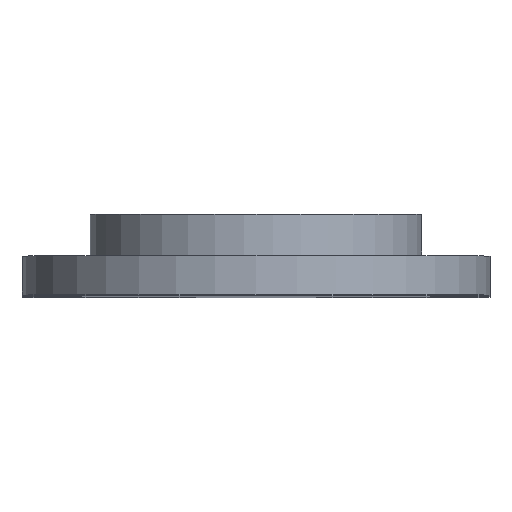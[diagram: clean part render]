
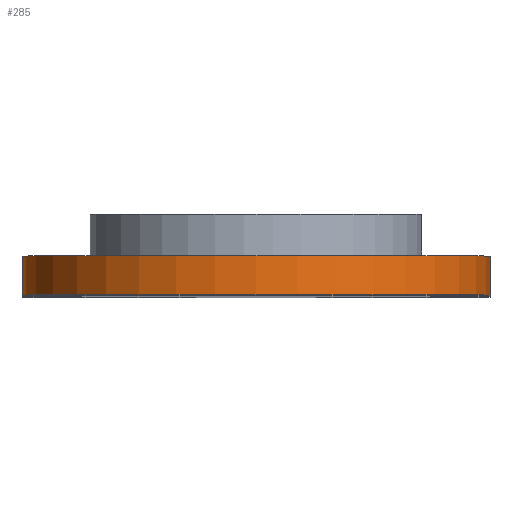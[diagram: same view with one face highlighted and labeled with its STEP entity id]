
A CAD part, top view. The second image highlights one B-rep face of the part: STEP entity #285.
In plain terms, the highlighted cylindrical face has radius 9 mm (diameter 18 mm), a full revolution.
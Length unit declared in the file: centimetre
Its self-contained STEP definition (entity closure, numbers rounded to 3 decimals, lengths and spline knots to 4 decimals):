
#33=CYLINDRICAL_SURFACE('',#335,0.9);
#52=FACE_BOUND('',#121,.T.);
#78=FACE_OUTER_BOUND('',#120,.T.);
#120=EDGE_LOOP('',(#240));
#121=EDGE_LOOP('',(#241));
#149=CIRCLE('',#331,0.9);
#152=CIRCLE('',#336,0.9);
#173=VERTEX_POINT('',#503);
#176=VERTEX_POINT('',#511);
#197=EDGE_CURVE('',#173,#173,#149,.T.);
#200=EDGE_CURVE('',#176,#176,#152,.T.);
#240=ORIENTED_EDGE('',*,*,#197,.F.);
#241=ORIENTED_EDGE('',*,*,#200,.F.);
#285=ADVANCED_FACE('',(#78,#52),#33,.T.);
#331=AXIS2_PLACEMENT_3D('',#504,#419,#420);
#335=AXIS2_PLACEMENT_3D('',#510,#427,#428);
#336=AXIS2_PLACEMENT_3D('',#512,#429,#430);
#419=DIRECTION('center_axis',(0.,1.,0.));
#420=DIRECTION('ref_axis',(1.,0.,0.));
#427=DIRECTION('center_axis',(0.,1.,0.));
#428=DIRECTION('ref_axis',(1.,0.,0.));
#429=DIRECTION('center_axis',(0.,-1.,0.));
#430=DIRECTION('ref_axis',(1.,0.,0.));
#503=CARTESIAN_POINT('',(0.9,0.359,5.009));
#504=CARTESIAN_POINT('Origin',(0.,0.359,5.009));
#510=CARTESIAN_POINT('Origin',(0.,0.209,5.009));
#511=CARTESIAN_POINT('',(-0.9,0.209,5.009));
#512=CARTESIAN_POINT('Origin',(0.,0.209,5.009));
